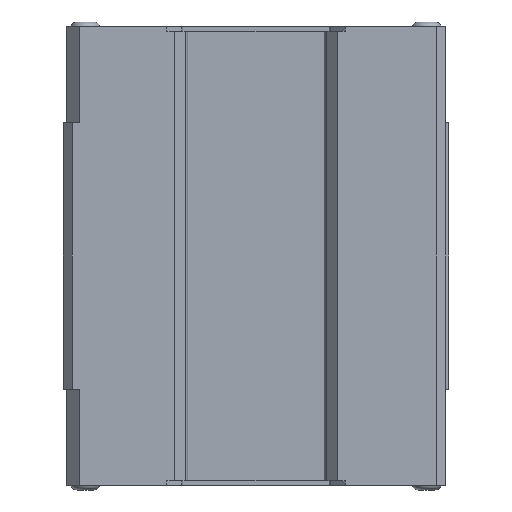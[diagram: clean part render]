
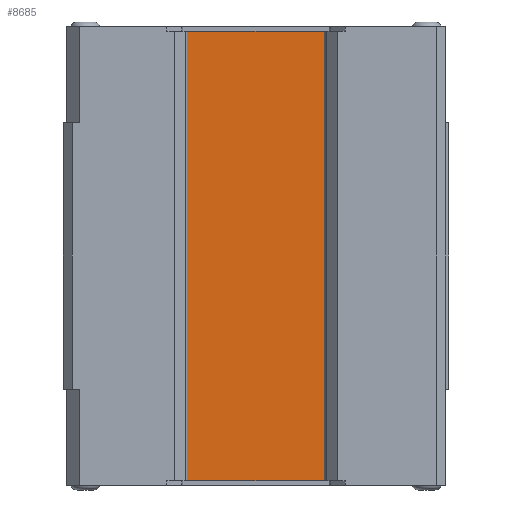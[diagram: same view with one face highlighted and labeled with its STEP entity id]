
A CAD part, front view. The second image highlights one B-rep face of the part: STEP entity #8685.
In plain terms, the highlighted planar face has unit normal (0, -1, 0).
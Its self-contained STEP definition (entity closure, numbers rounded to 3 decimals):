
#17 = CARTESIAN_POINT ( 'NONE',  ( 8.308, -0.07, 39. ) ) ;
#31 = EDGE_CURVE ( 'NONE', #1043, #8741, #8535, .T. ) ;
#306 = DIRECTION ( 'NONE',  ( 0., -1., 0. ) ) ;
#765 = DIRECTION ( 'NONE',  ( 0., 0., -1. ) ) ;
#1043 = VERTEX_POINT ( 'NONE', #7863 ) ;
#1135 = ORIENTED_EDGE ( 'NONE', *, *, #6250, .T. ) ;
#1385 = FACE_OUTER_BOUND ( 'NONE', #8979, .T. ) ;
#1887 = ORIENTED_EDGE ( 'NONE', *, *, #8328, .T. ) ;
#2287 = PLANE ( 'NONE',  #5357 ) ;
#2380 = CARTESIAN_POINT ( 'NONE',  ( -8.308, -0.07, -10. ) ) ;
#2812 = DIRECTION ( 'NONE',  ( -1., 0., 0. ) ) ;
#2817 = VERTEX_POINT ( 'NONE', #4135 ) ;
#3310 = VECTOR ( 'NONE', #3422, 1000. ) ;
#3422 = DIRECTION ( 'NONE',  ( 0., 0., 1. ) ) ;
#3527 = LINE ( 'NONE', #17, #3310 ) ;
#3637 = LINE ( 'NONE', #6339, #5327 ) ;
#4135 = CARTESIAN_POINT ( 'NONE',  ( 8.308, -0.07, 39. ) ) ;
#4452 = CARTESIAN_POINT ( 'NONE',  ( 8.305, -0.07, -10. ) ) ;
#4952 = VECTOR ( 'NONE', #2812, 1000. ) ;
#4960 = VERTEX_POINT ( 'NONE', #6751 ) ;
#5169 = DIRECTION ( 'NONE',  ( 0., 0., -1. ) ) ;
#5327 = VECTOR ( 'NONE', #765, 1000. ) ;
#5357 = AXIS2_PLACEMENT_3D ( 'NONE', #4452, #306, #5169 ) ;
#5813 = ORIENTED_EDGE ( 'NONE', *, *, #31, .F. ) ;
#5920 = CARTESIAN_POINT ( 'NONE',  ( 8.39, -0.07, -10. ) ) ;
#6250 = EDGE_CURVE ( 'NONE', #2817, #4960, #6812, .T. ) ;
#6339 = CARTESIAN_POINT ( 'NONE',  ( -8.308, -0.07, -10. ) ) ;
#6352 = CARTESIAN_POINT ( 'NONE',  ( 8.305, -0.07, 39. ) ) ;
#6450 = VECTOR ( 'NONE', #8154, 1000. ) ;
#6751 = CARTESIAN_POINT ( 'NONE',  ( -8.308, -0.07, 39. ) ) ;
#6812 = LINE ( 'NONE', #6352, #4952 ) ;
#7636 = ORIENTED_EDGE ( 'NONE', *, *, #8040, .T. ) ;
#7863 = CARTESIAN_POINT ( 'NONE',  ( 8.308, -0.07, -10. ) ) ;
#8040 = EDGE_CURVE ( 'NONE', #4960, #8741, #3637, .T. ) ;
#8154 = DIRECTION ( 'NONE',  ( -1., 0., 0. ) ) ;
#8328 = EDGE_CURVE ( 'NONE', #1043, #2817, #3527, .T. ) ;
#8535 = LINE ( 'NONE', #5920, #6450 ) ;
#8685 = ADVANCED_FACE ( 'NONE', ( #1385 ), #2287, .T. ) ;
#8741 = VERTEX_POINT ( 'NONE', #2380 ) ;
#8979 = EDGE_LOOP ( 'NONE', ( #1135, #7636, #5813, #1887 ) ) ;
